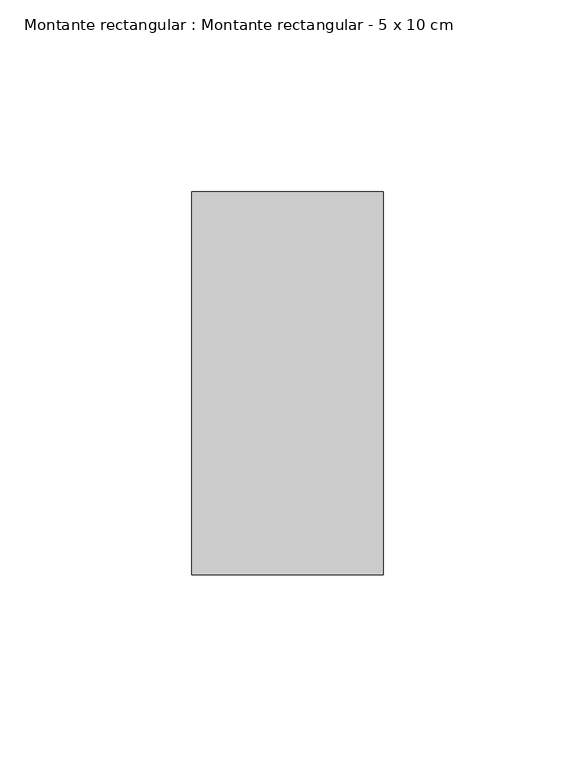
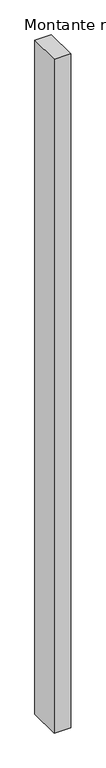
"""IFC4 building model written with IfcOpenShell, lengths in millimetres: member geometry, Montante rectangular : Montante rectangular - 5 x 10 cm."""

import ifcopenshell
import ifcopenshell.guid

model = None  # the IFC model being written
_history = None  # IfcOwnerHistory: only IFC2X3 demands one
_inside = {}  # id of a spatial element -> (the spatial element, [elements in it])
_under = {}  # id of a project, library or spatial element -> (it, [spatial elements below it])
_declared = {}  # id of a project -> (the project, [libraries it declares])
_typed = {}  # id of a type object -> (the type object, [elements of that type])
_made_of = {}  # id of a material, layer set ... -> (it, [elements and type objects made of it])


def new_model(schema):
    """Start an empty IFC model of exactly this schema.

    Asked for "IFC4X3", IfcOpenShell would pick the latest addendum, in which some entities
    have other attributes; the version numbers below select the first issue.
    IFC2X3 requires an IfcOwnerHistory on every rooted entity: one is made here for all.
    """
    global model, _history
    if schema == "IFC4X3":
        model = ifcopenshell.file(schema_version=(4, 3, 0, 0))
    else:
        model = ifcopenshell.file(schema=schema)
    _inside.clear()
    _under.clear()
    _declared.clear()
    _typed.clear()
    _made_of.clear()
    _history = None
    if model.schema == "IFC2X3":
        org = make("IfcOrganization", Name="unknown")
        user = make(
            "IfcPersonAndOrganization",
            ThePerson=make("IfcPerson", FamilyName="unknown"),
            TheOrganization=org,
        )
        app = make(
            "IfcApplication",
            ApplicationDeveloper=org,
            Version="unknown",
            ApplicationFullName="unknown",
            ApplicationIdentifier="unknown",
        )
        _history = make(
            "IfcOwnerHistory",
            OwningUser=user,
            OwningApplication=app,
            ChangeAction="ADDED",
            CreationDate=0,
        )
    return model


def make(cls, **values):
    """One entity of the class cls with the attributes given. An attribute that is None is left unset."""
    return model.create_entity(
        cls, **{name: value for name, value in values.items() if value is not None}
    )


def rooted(cls, **values):
    """An entity with a GlobalId (a new one), such as an element, a storey or a relation."""
    return make(cls, GlobalId=ifcopenshell.guid.new(), OwnerHistory=_history, **values)


def si_unit(unit_type, name, prefix=None):
    """IfcSIUnit, for example si_unit("LENGTHUNIT", "METRE", prefix="MILLI")."""
    return make("IfcSIUnit", UnitType=unit_type, Prefix=prefix, Name=name)


def assignment(units):
    """IfcUnitAssignment: the units of a project."""
    return None if units is None else make("IfcUnitAssignment", Units=units)


def point(xyz):
    """IfcCartesianPoint."""
    return None if xyz is None else make("IfcCartesianPoint", Coordinates=xyz)


def direction(xyz):
    """IfcDirection."""
    return None if xyz is None else make("IfcDirection", DirectionRatios=xyz)


def frame(location, z_axis=None, x_axis=None):
    """IfcAxis2Placement3D, a coordinate frame: its origin and axes. An axis left out is left unset."""
    return make(
        "IfcAxis2Placement3D",
        Location=point(location),
        Axis=direction(z_axis),
        RefDirection=direction(x_axis),
    )


def origin():
    """The frame at (0, 0, 0) with its axes left unset."""
    return frame((0.0, 0.0, 0.0))


def place(relative_to, where):
    """IfcLocalPlacement: puts the frame where relative to a parent placement (None: the world)."""
    return make(
        "IfcLocalPlacement", PlacementRelTo=relative_to, RelativePlacement=where
    )


def context(
    kind, dimensions, precision=None, world=None, true_north=None, identifier=None
):
    """IfcGeometricRepresentationContext, for example the 3D "Model" context."""
    return make(
        "IfcGeometricRepresentationContext",
        ContextIdentifier=identifier,
        ContextType=kind,
        CoordinateSpaceDimension=dimensions,
        Precision=precision,
        WorldCoordinateSystem=world,
        TrueNorth=true_north,
    )


def project(units=None, contexts=None):
    """IfcProject with its units and contexts."""
    return rooted(
        "IfcProject",
        Name="project",
        RepresentationContexts=contexts,
        UnitsInContext=assignment(units),
    )


def spatial(cls, under=None, at=None, **own):
    """A site, building, storey or space (cls), placed at a placement, below another one or the project."""
    s = rooted(cls, ObjectPlacement=at, **own)
    if under is not None:
        _under.setdefault(under.id(), (under, []))[1].append(s)
    return s


def polyline(points):
    """IfcPolyline through the points."""
    return make("IfcPolyline", Points=[point(p) for p in points])


def outline(outer, holes=None, kind="AREA"):
    """IfcArbitraryClosedProfileDef: a profile drawn as a closed curve; with holes, ...WithVoids."""
    if holes is None:
        return make("IfcArbitraryClosedProfileDef", ProfileType=kind, OuterCurve=outer)
    return make(
        "IfcArbitraryProfileDefWithVoids",
        ProfileType=kind,
        OuterCurve=outer,
        InnerCurves=holes,
    )


def extrude(swept, where, along, depth):
    """IfcExtrudedAreaSolid: the profile swept, set in the frame where, extruded along a direction by depth."""
    return make(
        "IfcExtrudedAreaSolid",
        SweptArea=swept,
        Position=where,
        ExtrudedDirection=direction(along),
        Depth=depth,
    )


def shape(context_of_items, identifier, shape_type, items):
    """IfcShapeRepresentation: the items that make up one representation, for example the "Body"."""
    return make(
        "IfcShapeRepresentation",
        ContextOfItems=context_of_items,
        RepresentationIdentifier=identifier,
        RepresentationType=shape_type,
        Items=items,
    )


def source(mapping_origin, context_of_items, identifier, shape_type, items):
    """IfcRepresentationMap: a shape defined once, which mapped items show again and again."""
    return make(
        "IfcRepresentationMap",
        MappingOrigin=mapping_origin,
        MappedRepresentation=shape(context_of_items, identifier, shape_type, items),
    )


def transform(
    local_origin,
    x_axis=None,
    y_axis=None,
    z_axis=None,
    scale=None,
    scale2=None,
    scale3=None,
    uniform=True,
):
    """IfcCartesianTransformationOperator3D, or its non-uniform kind. x_axis, y_axis, z_axis: its Axis1, 2, 3."""
    if uniform:
        return make(
            "IfcCartesianTransformationOperator3D",
            Axis1=direction(x_axis),
            Axis2=direction(y_axis),
            LocalOrigin=point(local_origin),
            Scale=scale,
            Axis3=direction(z_axis),
        )
    return make(
        "IfcCartesianTransformationOperator3DnonUniform",
        Axis1=direction(x_axis),
        Axis2=direction(y_axis),
        LocalOrigin=point(local_origin),
        Scale=scale,
        Axis3=direction(z_axis),
        Scale2=scale2,
        Scale3=scale3,
    )


def mapped(mapping_source, mapping_target):
    """IfcMappedItem: shows the shape of a source again, moved by a transform."""
    return make(
        "IfcMappedItem", MappingSource=mapping_source, MappingTarget=mapping_target
    )


def made_of(thing, what):
    """Note that an element or type object is made of a material, layer set ...; save() writes the relation."""
    if what is not None:
        _made_of.setdefault(what.id(), (what, []))[1].append(thing)
    return thing


def element(
    cls,
    number,
    at=None,
    inside=None,
    cuts=None,
    type_object=None,
    material=None,
    context=None,
    identifier="Body",
    shape_type=None,
    held_by="IfcProductDefinitionShape",
    body=None,
    shapes=None,
    **own,
):
    """One element of the class cls, such as IfcWall. Its Tag is "e" and its number.

    at: its placement. inside: the storey or other place that contains it. cuts: it is an
    opening in that element (IfcRelVoidsElement). A single representation is given by context,
    identifier, shape_type and body (its items); several are given by shapes. held_by: the class
    of the entity that holds the representations. save() writes the other relations.
    """
    e = rooted(cls, Tag="e%d" % number, ObjectPlacement=at, **own)
    if body is not None:
        shapes = [shape(context, identifier, shape_type, body)]
    if shapes is not None:
        e.Representation = make(held_by, Representations=shapes)
    if inside is not None:
        _inside.setdefault(inside.id(), (inside, []))[1].append(e)
    if cuts is not None:
        rooted(
            "IfcRelVoidsElement", RelatingBuildingElement=cuts, RelatedOpeningElement=e
        )
    if type_object is not None:
        _typed.setdefault(type_object.id(), (type_object, []))[1].append(e)
    return made_of(e, material)


def aggregate(whole, parts):
    """IfcRelAggregates: a whole, such as a stair, and the parts it consists of."""
    return rooted("IfcRelAggregates", RelatingObject=whole, RelatedObjects=parts)


def save(model, path):
    """Write the relations noted so far, then the file.

    IfcRelAggregates (storeys below a building ...), IfcRelContainedInSpatialStructure (elements
    in a storey), IfcRelDefinesByType, IfcRelAssociatesMaterial and IfcRelDeclares: one each for
    every whole, place, type object, material and project.
    """
    for whole, parts in _under.values():
        aggregate(whole, parts)
    for where, things in _inside.values():
        rooted(
            "IfcRelContainedInSpatialStructure",
            RelatedElements=things,
            RelatingStructure=where,
        )
    for kind, things in _typed.values():
        rooted("IfcRelDefinesByType", RelatedObjects=things, RelatingType=kind)
    for what, things in _made_of.values():
        rooted("IfcRelAssociatesMaterial", RelatedObjects=things, RelatingMaterial=what)
    for by, libraries in _declared.values():
        rooted("IfcRelDeclares", RelatingContext=by, RelatedDefinitions=libraries)
    model.write(path)


def montante_rectangular_montante_rectangular_5_x_10_cm_a1e34a50(model_context):
    return source(origin(), model_context, "Body", "SweptSolid", [
        extrude(outline(polyline([(-50.0, 50.0), (0.0, 50.0), (0.0, -50.0), (-50.0, -50.0), (-50.0, 50.0)])), frame((0.0, 0.0, -2150.0), z_axis=(0.0, 0.0, 1.0), x_axis=(1.0, 0.0, 0.0)), (0.0, 0.0, 1.0), 2150.0),
    ])


if __name__ == "__main__":
    model = new_model("IFC4")
    model_context = context("Model", 3, world=origin())
    ifc_project = project(units=[si_unit("LENGTHUNIT", "METRE", prefix="MILLI")], contexts=[model_context])
    site = spatial("IfcSite", under=ifc_project)
    building = spatial("IfcBuilding", under=site)
    placement = place(None, origin())
    montante_rectangular_montante_rectangular_5_x_10_cm_shape = montante_rectangular_montante_rectangular_5_x_10_cm_a1e34a50(model_context)
    element("IfcMember", 1, ObjectType="Montante rectangular : Montante rectangular - 5 x 10 cm", at=placement, inside=building, context=model_context, shape_type="MappedRepresentation", body=[
        mapped(montante_rectangular_montante_rectangular_5_x_10_cm_shape, transform((0.0, 0.0, 0.0), x_axis=(1.0, 0.0, 0.0), y_axis=(0.0, 1.0, 0.0), z_axis=(0.0, 0.0, 1.0))),
    ])
    save(model, "model.ifc")
